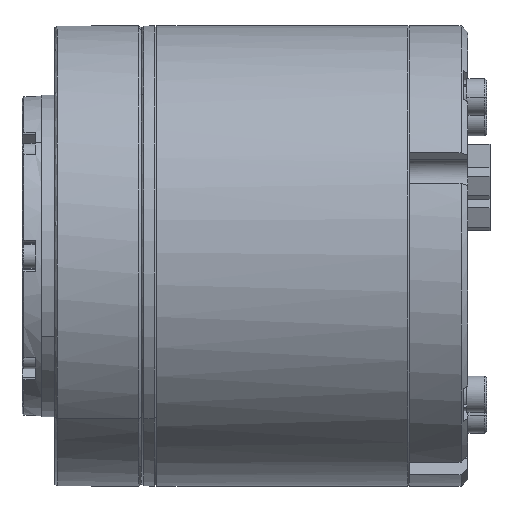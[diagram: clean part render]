
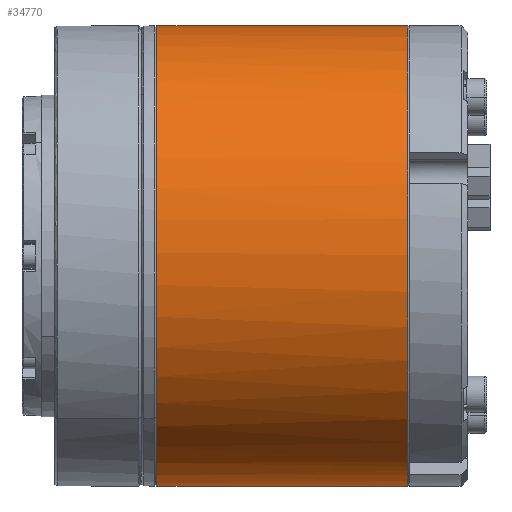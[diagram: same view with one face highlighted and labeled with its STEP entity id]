
A CAD part, front view. The second image highlights one B-rep face of the part: STEP entity #34770.
In plain terms, the highlighted cylindrical face has radius 35 mm (diameter 70 mm), a partial arc.
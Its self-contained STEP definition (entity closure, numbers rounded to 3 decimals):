
#726 = EDGE_CURVE ( 'NONE', #35425, #50816, #39403, .T. ) ;
#2357 = CARTESIAN_POINT ( 'NONE',  ( 26.519, -33.729, -4.581 ) ) ;
#3112 = EDGE_CURVE ( 'NONE', #56564, #6628, #63552, .T. ) ;
#4219 = VERTEX_POINT ( 'NONE', #76900 ) ;
#6403 = AXIS2_PLACEMENT_3D ( 'NONE', #47022, #40656, #66595 ) ;
#6628 = VERTEX_POINT ( 'NONE', #38204 ) ;
#9173 = CARTESIAN_POINT ( 'NONE',  ( 26.519, -30.413, 15.51 ) ) ;
#9593 = CARTESIAN_POINT ( 'NONE',  ( 26.519, -8.029, -33.881 ) ) ;
#10007 = CARTESIAN_POINT ( 'NONE',  ( 26.519, -3.536, -34.774 ) ) ;
#10913 = CARTESIAN_POINT ( 'NONE',  ( 64.619, 1.046, 0. ) ) ;
#11328 = ORIENTED_EDGE ( 'NONE', *, *, #34437, .T. ) ;
#15126 = CARTESIAN_POINT ( 'NONE',  ( 26.519, -32.167, 11.278 ) ) ;
#15552 = CARTESIAN_POINT ( 'NONE',  ( 26.519, -10.232, -33.212 ) ) ;
#15792 = CIRCLE ( 'NONE', #21248, 35. ) ;
#16054 = DIRECTION ( 'NONE',  ( 0., 0., -1. ) ) ;
#16263 = CARTESIAN_POINT ( 'NONE',  ( 64.619, 1.046, 0. ) ) ;
#16411 = CARTESIAN_POINT ( 'NONE',  ( 26.519, -32.835, 9.075 ) ) ;
#16827 = CARTESIAN_POINT ( 'NONE',  ( 26.519, -20.304, -27.829 ) ) ;
#18125 = DIRECTION ( 'NONE',  ( 0., 0., -1. ) ) ;
#18585 = CARTESIAN_POINT ( 'NONE',  ( 64.619, -9.909, -33.241 ) ) ;
#18942 = CARTESIAN_POINT ( 'NONE',  ( 39.219, 1.046, -35. ) ) ;
#21070 = CYLINDRICAL_SURFACE ( 'NONE', #6403, 35. ) ;
#21248 = AXIS2_PLACEMENT_3D ( 'NONE', #16263, #48193, #74108 ) ;
#21607 = EDGE_LOOP ( 'NONE', ( #27226, #48277, #39072, #79509, #67711, #11328, #42544, #69919 ) ) ;
#21948 = CARTESIAN_POINT ( 'NONE',  ( 26.519, -14.464, -31.459 ) ) ;
#23597 = CARTESIAN_POINT ( 'NONE',  ( 64.619, 1.046, 35. ) ) ;
#24362 = CARTESIAN_POINT ( 'NONE',  ( 64.619, 1.046, 0. ) ) ;
#25335 = CARTESIAN_POINT ( 'NONE',  ( 51.919, 1.046, -35. ) ) ;
#27226 = ORIENTED_EDGE ( 'NONE', *, *, #3112, .F. ) ;
#27905 = CARTESIAN_POINT ( 'NONE',  ( 26.519, -33.729, 4.581 ) ) ;
#28764 = CARTESIAN_POINT ( 'NONE',  ( 26.519, -14.464, 31.459 ) ) ;
#29617 = CARTESIAN_POINT ( 'NONE',  ( 26.519, -32.835, -9.075 ) ) ;
#31390 = EDGE_CURVE ( 'NONE', #4219, #67518, #78408, .T. ) ;
#33462 = EDGE_CURVE ( 'NONE', #50816, #54441, #76990, .T. ) ;
#34437 = EDGE_CURVE ( 'NONE', #54441, #67518, #36357, .T. ) ;
#34728 = CARTESIAN_POINT ( 'NONE',  ( 26.519, -20.304, 27.829 ) ) ;
#34770 = ADVANCED_FACE ( 'NONE', ( #79331 ), #21070, .T. ) ;
#35425 = VERTEX_POINT ( 'NONE', #82113 ) ;
#35587 = CARTESIAN_POINT ( 'NONE',  ( 26.519, -26.783, -21.35 ) ) ;
#36003 = CARTESIAN_POINT ( 'NONE',  ( 26.519, -1.245, -35. ) ) ;
#36357 = CIRCLE ( 'NONE', #79755, 35. ) ;
#37159 = DIRECTION ( 'NONE',  ( -1., 0., 0. ) ) ;
#37340 = EDGE_CURVE ( 'NONE', #56564, #63581, #73890, .T. ) ;
#37987 = CARTESIAN_POINT ( 'NONE',  ( 64.619, -30.206, 15.759 ) ) ;
#38204 = CARTESIAN_POINT ( 'NONE',  ( 26.519, 1.046, -35. ) ) ;
#38257 = DIRECTION ( 'NONE',  ( 0., 0., -1. ) ) ;
#39072 = ORIENTED_EDGE ( 'NONE', *, *, #66985, .T. ) ;
#39403 = CIRCLE ( 'NONE', #54167, 35. ) ;
#40656 = DIRECTION ( 'NONE',  ( 1., 0., 0. ) ) ;
#41516 = CARTESIAN_POINT ( 'NONE',  ( 26.519, 1.046, -35. ) ) ;
#41714 = AXIS2_PLACEMENT_3D ( 'NONE', #10913, #43677, #18125 ) ;
#41959 = CARTESIAN_POINT ( 'NONE',  ( 26.519, -10.232, 33.212 ) ) ;
#42383 = CARTESIAN_POINT ( 'NONE',  ( 26.519, -22.083, -26.369 ) ) ;
#42544 = ORIENTED_EDGE ( 'NONE', *, *, #31390, .F. ) ;
#43677 = DIRECTION ( 'NONE',  ( -1., 0., 0. ) ) ;
#44770 = DIRECTION ( 'NONE',  ( 0., 0., -1. ) ) ;
#47022 = CARTESIAN_POINT ( 'NONE',  ( 26.519, 1.046, 0. ) ) ;
#47486 = CARTESIAN_POINT ( 'NONE',  ( 26.519, -25.323, 23.129 ) ) ;
#48193 = DIRECTION ( 'NONE',  ( -1., 0., 0. ) ) ;
#48277 = ORIENTED_EDGE ( 'NONE', *, *, #37340, .T. ) ;
#48342 = CARTESIAN_POINT ( 'NONE',  ( 26.519, -8.029, 33.881 ) ) ;
#48777 = CARTESIAN_POINT ( 'NONE',  ( 26.519, -29.328, 17.54 ) ) ;
#49200 = CARTESIAN_POINT ( 'NONE',  ( 26.519, -1.245, 35. ) ) ;
#50816 = VERTEX_POINT ( 'NONE', #51502 ) ;
#50899 = CARTESIAN_POINT ( 'NONE',  ( 64.619, 1.046, -35. ) ) ;
#51469 = CARTESIAN_POINT ( 'NONE',  ( 64.619, 1.046, 35. ) ) ;
#51502 = CARTESIAN_POINT ( 'NONE',  ( 64.619, -32.196, 10.955 ) ) ;
#52271 = AXIS2_PLACEMENT_3D ( 'NONE', #24362, #37159, #44770 ) ;
#53890 = CARTESIAN_POINT ( 'NONE',  ( 26.519, 1.046, 35. ) ) ;
#54167 = AXIS2_PLACEMENT_3D ( 'NONE', #76921, #64169, #38257 ) ;
#54441 = VERTEX_POINT ( 'NONE', #37987 ) ;
#54727 = CARTESIAN_POINT ( 'NONE',  ( 26.519, -26.783, 21.35 ) ) ;
#55145 = CARTESIAN_POINT ( 'NONE',  ( 26.519, -30.413, -15.51 ) ) ;
#56564 = VERTEX_POINT ( 'NONE', #76633 ) ;
#57195 = CARTESIAN_POINT ( 'NONE',  ( 26.519, 1.046, 35. ) ) ;
#57672 = CARTESIAN_POINT ( 'NONE',  ( 26.519, 1.046, -35. ) ) ;
#59546 = EDGE_CURVE ( 'NONE', #4219, #6628, #67500, .T. ) ;
#60654 = CARTESIAN_POINT ( 'NONE',  ( 26.519, -33.954, -2.291 ) ) ;
#63552 = B_SPLINE_CURVE_WITH_KNOTS ( 'NONE', 3,
 ( #50899, #25335, #18942, #57672 ),
 .UNSPECIFIED., .F., .F.,
 ( 4, 4 ),
 ( 0.005, 1. ),
 .UNSPECIFIED. ) ;
#63581 = VERTEX_POINT ( 'NONE', #18585 ) ;
#64169 = DIRECTION ( 'NONE',  ( -1., 0., 0. ) ) ;
#66270 = CARTESIAN_POINT ( 'NONE',  ( 64.619, 1.046, 0. ) ) ;
#66595 = DIRECTION ( 'NONE',  ( 0., 0., 1. ) ) ;
#66985 = EDGE_CURVE ( 'NONE', #63581, #35425, #15792, .T. ) ;
#67039 = CARTESIAN_POINT ( 'NONE',  ( 26.519, -3.536, 34.774 ) ) ;
#67465 = CARTESIAN_POINT ( 'NONE',  ( 26.519, -33.954, 2.291 ) ) ;
#67500 = B_SPLINE_CURVE_WITH_KNOTS ( 'NONE', 3,
 ( #53890, #49200, #67039, #48342, #41959, #28764, #79791, #34728, #73839, #47486, #54727, #48777, #9173, #15126, #16411, #27905, #67465, #60654, #2357, #29617, #75108, #55145, #68307, #35587, #80646, #42383, #16827, #80227, #21948, #15552, #9593, #10007, #36003, #41516 ),
 .UNSPECIFIED., .F., .F.,
 ( 4, 2, 2, 2, 2, 2, 2, 2, 2, 2, 2, 2, 2, 2, 2, 2, 4 ),
 ( 0., 0.062, 0.125, 0.187, 0.25, 0.312, 0.375, 0.437, 0.5, 0.562, 0.625, 0.687, 0.75, 0.812, 0.875, 0.938, 1. ),
 .UNSPECIFIED. ) ;
#67518 = VERTEX_POINT ( 'NONE', #51469 ) ;
#67711 = ORIENTED_EDGE ( 'NONE', *, *, #33462, .T. ) ;
#68307 = CARTESIAN_POINT ( 'NONE',  ( 26.519, -29.328, -17.54 ) ) ;
#69919 = ORIENTED_EDGE ( 'NONE', *, *, #59546, .T. ) ;
#73839 = CARTESIAN_POINT ( 'NONE',  ( 26.519, -22.083, 26.369 ) ) ;
#73890 = CIRCLE ( 'NONE', #52271, 35. ) ;
#73905 = DIRECTION ( 'NONE',  ( -1., 0., 0. ) ) ;
#74108 = DIRECTION ( 'NONE',  ( 0., 0., -1. ) ) ;
#75108 = CARTESIAN_POINT ( 'NONE',  ( 26.519, -32.167, -11.278 ) ) ;
#76633 = CARTESIAN_POINT ( 'NONE',  ( 64.619, 1.046, -35. ) ) ;
#76722 = CARTESIAN_POINT ( 'NONE',  ( 39.219, 1.046, 35. ) ) ;
#76900 = CARTESIAN_POINT ( 'NONE',  ( 26.519, 1.046, 35. ) ) ;
#76921 = CARTESIAN_POINT ( 'NONE',  ( 64.619, 1.046, 0. ) ) ;
#76990 = CIRCLE ( 'NONE', #41714, 35. ) ;
#78408 = B_SPLINE_CURVE_WITH_KNOTS ( 'NONE', 3,
 ( #57195, #76722, #81460, #23597 ),
 .UNSPECIFIED., .F., .F.,
 ( 4, 4 ),
 ( 0., 0.995 ),
 .UNSPECIFIED. ) ;
#79331 = FACE_OUTER_BOUND ( 'NONE', #21607, .T. ) ;
#79509 = ORIENTED_EDGE ( 'NONE', *, *, #726, .T. ) ;
#79755 = AXIS2_PLACEMENT_3D ( 'NONE', #66270, #73905, #16054 ) ;
#79791 = CARTESIAN_POINT ( 'NONE',  ( 26.519, -16.494, 30.374 ) ) ;
#80227 = CARTESIAN_POINT ( 'NONE',  ( 26.519, -16.494, -30.374 ) ) ;
#80646 = CARTESIAN_POINT ( 'NONE',  ( 26.519, -25.323, -23.129 ) ) ;
#81460 = CARTESIAN_POINT ( 'NONE',  ( 51.919, 1.046, 35. ) ) ;
#82113 = CARTESIAN_POINT ( 'NONE',  ( 64.619, -14.713, -31.251 ) ) ;
